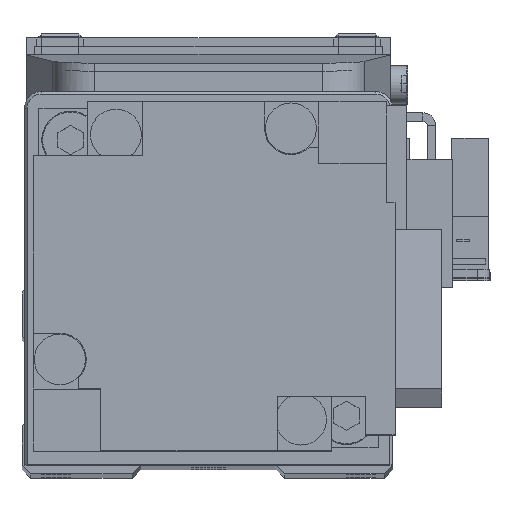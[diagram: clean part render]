
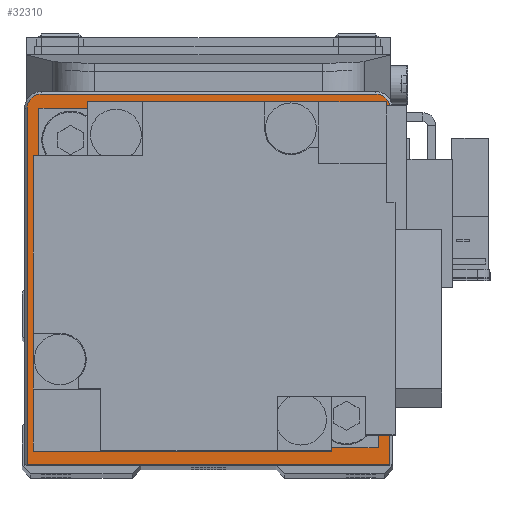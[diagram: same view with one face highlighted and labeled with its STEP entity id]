
A CAD part, top view. The second image highlights one B-rep face of the part: STEP entity #32310.
In plain terms, the highlighted planar face has unit normal (0, 0, 1).
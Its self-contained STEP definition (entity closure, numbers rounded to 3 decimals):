
#75 = ORIENTED_EDGE ( 'NONE', *, *, #12952, .T. ) ;
#352 = DIRECTION ( 'NONE',  ( 0., -1., 0. ) ) ;
#715 = DIRECTION ( 'NONE',  ( 0., 0., 1. ) ) ;
#1091 = EDGE_CURVE ( 'NONE', #9542, #30990, #3806, .T. ) ;
#1124 = DIRECTION ( 'NONE',  ( 1., 0., 0. ) ) ;
#1502 = ORIENTED_EDGE ( 'NONE', *, *, #16495, .T. ) ;
#3487 = AXIS2_PLACEMENT_3D ( 'NONE', #31053, #7160, #17779 ) ;
#3739 = AXIS2_PLACEMENT_3D ( 'NONE', #7236, #17861, #28512 ) ;
#3806 = LINE ( 'NONE', #14413, #34135 ) ;
#4007 = DIRECTION ( 'NONE',  ( 1., 0., 0. ) ) ;
#4814 = ORIENTED_EDGE ( 'NONE', *, *, #6213, .F. ) ;
#4912 = LINE ( 'NONE', #15529, #18383 ) ;
#4987 = LINE ( 'NONE', #15609, #19960 ) ;
#5170 = CIRCLE ( 'NONE', #24638, 1.7 ) ;
#5594 = CARTESIAN_POINT ( 'NONE',  ( -21.4, 20., 26.5 ) ) ;
#6129 = PLANE ( 'NONE',  #18598 ) ;
#6213 = EDGE_CURVE ( 'NONE', #29948, #11886, #18753, .T. ) ;
#6365 = VERTEX_POINT ( 'NONE', #8088 ) ;
#6592 = AXIS2_PLACEMENT_3D ( 'NONE', #24575, #715, #11320 ) ;
#7160 = DIRECTION ( 'NONE',  ( 0., 0., 1. ) ) ;
#7236 = CARTESIAN_POINT ( 'NONE',  ( 0., 0., 26.5 ) ) ;
#7727 = ORIENTED_EDGE ( 'NONE', *, *, #27930, .T. ) ;
#7883 = CARTESIAN_POINT ( 'NONE',  ( 21.4, -22., 26.5 ) ) ;
#8088 = CARTESIAN_POINT ( 'NONE',  ( 19.7, 21.7, 26.5 ) ) ;
#8377 = EDGE_LOOP ( 'NONE', ( #22639, #4814 ) ) ;
#9542 = VERTEX_POINT ( 'NONE', #9856 ) ;
#9856 = CARTESIAN_POINT ( 'NONE',  ( -21.4, -22., 26.5 ) ) ;
#10346 = ORIENTED_EDGE ( 'NONE', *, *, #13469, .T. ) ;
#11320 = DIRECTION ( 'NONE',  ( 1., 0., 0. ) ) ;
#11886 = VERTEX_POINT ( 'NONE', #31459 ) ;
#12524 = EDGE_LOOP ( 'NONE', ( #26999, #1502, #10346, #7727, #29393, #75 ) ) ;
#12952 = EDGE_CURVE ( 'NONE', #22402, #9542, #13573, .T. ) ;
#13469 = EDGE_CURVE ( 'NONE', #29564, #6365, #5170, .T. ) ;
#13573 = LINE ( 'NONE', #24209, #14582 ) ;
#14346 = CARTESIAN_POINT ( 'NONE',  ( 19.7, 20., 26.5 ) ) ;
#14413 = CARTESIAN_POINT ( 'NONE',  ( -21.7, -22., 26.5 ) ) ;
#14582 = VECTOR ( 'NONE', #352, 1000. ) ;
#14827 = CARTESIAN_POINT ( 'NONE',  ( 10., 0., 26.5 ) ) ;
#15208 = CARTESIAN_POINT ( 'NONE',  ( 21.4, 20., 26.5 ) ) ;
#15529 = CARTESIAN_POINT ( 'NONE',  ( -19.7, 21.7, 26.5 ) ) ;
#15609 = CARTESIAN_POINT ( 'NONE',  ( 21.4, 20., 26.5 ) ) ;
#16495 = EDGE_CURVE ( 'NONE', #30990, #29564, #4987, .T. ) ;
#16755 = CARTESIAN_POINT ( 'NONE',  ( 0., 0., 26.5 ) ) ;
#16990 = VERTEX_POINT ( 'NONE', #32261 ) ;
#17779 = DIRECTION ( 'NONE',  ( 1., 0., 0. ) ) ;
#17861 = DIRECTION ( 'NONE',  ( 0., 0., 1. ) ) ;
#18383 = VECTOR ( 'NONE', #26177, 1000. ) ;
#18511 = CIRCLE ( 'NONE', #3487, 1.7 ) ;
#18598 = AXIS2_PLACEMENT_3D ( 'NONE', #16755, #27881, #4007 ) ;
#18753 = CIRCLE ( 'NONE', #3739, 10. ) ;
#19377 = FACE_OUTER_BOUND ( 'NONE', #12524, .T. ) ;
#19960 = VECTOR ( 'NONE', #26253, 1000. ) ;
#21227 = EDGE_CURVE ( 'NONE', #11886, #29948, #21605, .T. ) ;
#21605 = CIRCLE ( 'NONE', #6592, 10. ) ;
#22402 = VERTEX_POINT ( 'NONE', #5594 ) ;
#22639 = ORIENTED_EDGE ( 'NONE', *, *, #21227, .F. ) ;
#24209 = CARTESIAN_POINT ( 'NONE',  ( -21.4, -22., 26.5 ) ) ;
#24575 = CARTESIAN_POINT ( 'NONE',  ( 0., 0., 26.5 ) ) ;
#24638 = AXIS2_PLACEMENT_3D ( 'NONE', #14346, #24990, #1124 ) ;
#24990 = DIRECTION ( 'NONE',  ( 0., 0., 1. ) ) ;
#25057 = DIRECTION ( 'NONE',  ( 1., 0., 0. ) ) ;
#26177 = DIRECTION ( 'NONE',  ( -1., 0., 0. ) ) ;
#26253 = DIRECTION ( 'NONE',  ( 0., 1., 0. ) ) ;
#26999 = ORIENTED_EDGE ( 'NONE', *, *, #1091, .T. ) ;
#27881 = DIRECTION ( 'NONE',  ( 0., 0., 1. ) ) ;
#27930 = EDGE_CURVE ( 'NONE', #6365, #16990, #4912, .T. ) ;
#28512 = DIRECTION ( 'NONE',  ( 1., 0., 0. ) ) ;
#29393 = ORIENTED_EDGE ( 'NONE', *, *, #30008, .T. ) ;
#29564 = VERTEX_POINT ( 'NONE', #15208 ) ;
#29948 = VERTEX_POINT ( 'NONE', #14827 ) ;
#30008 = EDGE_CURVE ( 'NONE', #16990, #22402, #18511, .T. ) ;
#30014 = FACE_BOUND ( 'NONE', #8377, .T. ) ;
#30990 = VERTEX_POINT ( 'NONE', #7883 ) ;
#31053 = CARTESIAN_POINT ( 'NONE',  ( -19.7, 20., 26.5 ) ) ;
#31459 = CARTESIAN_POINT ( 'NONE',  ( -10., 0., 26.5 ) ) ;
#32261 = CARTESIAN_POINT ( 'NONE',  ( -19.7, 21.7, 26.5 ) ) ;
#32310 = ADVANCED_FACE ( 'NONE', ( #19377, #30014 ), #6129, .T. ) ;
#34135 = VECTOR ( 'NONE', #25057, 1000. ) ;
